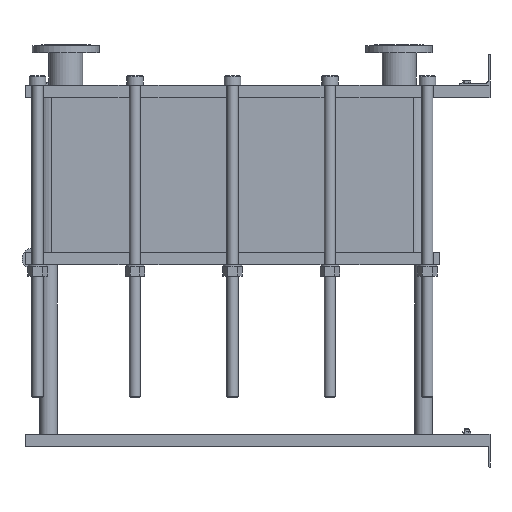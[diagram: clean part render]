
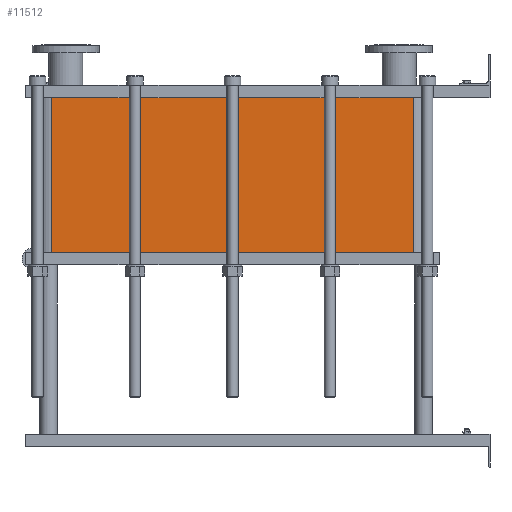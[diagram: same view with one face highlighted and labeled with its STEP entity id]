
A CAD part, left-side view. The second image highlights one B-rep face of the part: STEP entity #11512.
In plain terms, the highlighted planar face has unit normal (-1, 0, 0).
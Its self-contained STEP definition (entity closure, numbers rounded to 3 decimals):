
#1129=LINE('',#23232,#2102);
#1130=LINE('',#23236,#2103);
#1131=LINE('',#23238,#2104);
#1132=LINE('',#23239,#2105);
#2102=VECTOR('',#15887,10.);
#2103=VECTOR('',#15892,10.);
#2104=VECTOR('',#15893,10.);
#2105=VECTOR('',#15894,10.);
#3267=FACE_OUTER_BOUND('',#4093,.T.);
#4093=EDGE_LOOP('',(#10103,#10104,#10105,#10106));
#5642=VERTEX_POINT('',#23229);
#5643=VERTEX_POINT('',#23231);
#5644=VERTEX_POINT('',#23235);
#5645=VERTEX_POINT('',#23237);
#7159=EDGE_CURVE('',#5643,#5642,#1129,.T.);
#7161=EDGE_CURVE('',#5642,#5644,#1130,.T.);
#7162=EDGE_CURVE('',#5645,#5644,#1131,.T.);
#7163=EDGE_CURVE('',#5645,#5643,#1132,.T.);
#10103=ORIENTED_EDGE('',*,*,#7161,.T.);
#10104=ORIENTED_EDGE('',*,*,#7162,.F.);
#10105=ORIENTED_EDGE('',*,*,#7163,.T.);
#10106=ORIENTED_EDGE('',*,*,#7159,.T.);
#10857=PLANE('',#12751);
#11512=ADVANCED_FACE('',(#3267),#10857,.T.);
#12751=AXIS2_PLACEMENT_3D('',#23234,#15890,#15891);
#15887=DIRECTION('',(0.,0.,-1.));
#15890=DIRECTION('center_axis',(-1.,0.,0.));
#15891=DIRECTION('ref_axis',(0.,1.,0.));
#15892=DIRECTION('',(0.,-1.,0.));
#15893=DIRECTION('',(0.,0.,-1.));
#15894=DIRECTION('',(0.,1.,0.));
#23229=CARTESIAN_POINT('',(-200.,1414.,-500.25));
#23231=CARTESIAN_POINT('',(-200.,1414.,0.));
#23232=CARTESIAN_POINT('',(-200.,1414.,0.));
#23234=CARTESIAN_POINT('Origin',(-200.,248.,0.));
#23235=CARTESIAN_POINT('',(-200.,248.,-500.25));
#23236=CARTESIAN_POINT('',(-200.,539.5,-500.25));
#23237=CARTESIAN_POINT('',(-200.,248.,0.));
#23238=CARTESIAN_POINT('',(-200.,248.,0.));
#23239=CARTESIAN_POINT('',(-200.,248.,0.));
